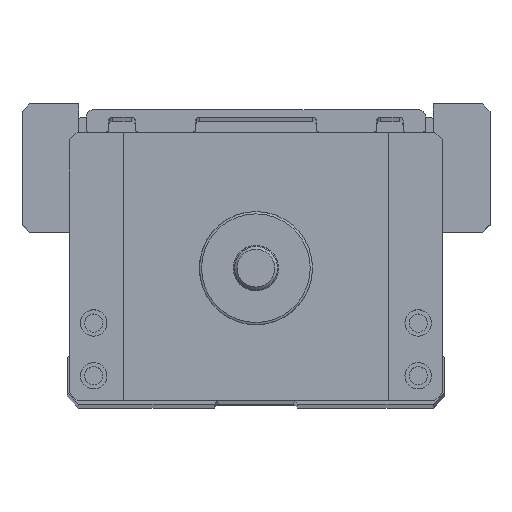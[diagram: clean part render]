
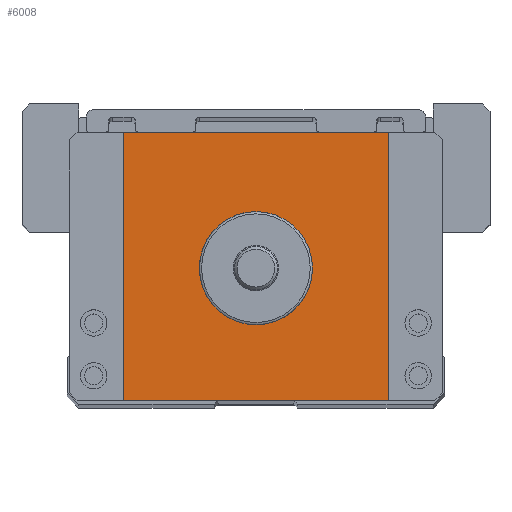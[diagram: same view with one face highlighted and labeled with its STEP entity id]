
A CAD part, top view. The second image highlights one B-rep face of the part: STEP entity #6008.
In plain terms, the highlighted planar face has unit normal (0, 0, 1).
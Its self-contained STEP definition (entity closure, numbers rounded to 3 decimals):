
#4439=FACE_BOUND('',#7900,.T.);
#4440=FACE_BOUND('',#7901,.T.);
#5284=CIRCLE('',#17453,7.5);
#6008=ADVANCED_FACE('',(#4439,#4440),#6436,.T.);
#6436=PLANE('',#17454);
#7900=EDGE_LOOP('',(#11159));
#7901=EDGE_LOOP('',(#11160,#11161,#11162,#11163));
#11159=ORIENTED_EDGE('',*,*,#14197,.T.);
#11160=ORIENTED_EDGE('',*,*,#14198,.T.);
#11161=ORIENTED_EDGE('',*,*,#14199,.T.);
#11162=ORIENTED_EDGE('',*,*,#14194,.T.);
#11163=ORIENTED_EDGE('',*,*,#14200,.T.);
#12528=VERTEX_POINT('',#33693);
#12529=VERTEX_POINT('',#33695);
#12531=VERTEX_POINT('',#33701);
#12532=VERTEX_POINT('',#33703);
#12533=VERTEX_POINT('',#33704);
#14194=EDGE_CURVE('',#12529,#12528,#15242,.T.);
#14197=EDGE_CURVE('',#12531,#12531,#5284,.T.);
#14198=EDGE_CURVE('',#12532,#12533,#15244,.T.);
#14199=EDGE_CURVE('',#12533,#12529,#15245,.T.);
#14200=EDGE_CURVE('',#12528,#12532,#15246,.T.);
#15242=LINE('',#33694,#16234);
#15244=LINE('',#33702,#16236);
#15245=LINE('',#33705,#16237);
#15246=LINE('',#33706,#16238);
#16234=VECTOR('',#20788,1.);
#16236=VECTOR('',#20796,1.);
#16237=VECTOR('',#20797,1.);
#16238=VECTOR('',#20798,1.);
#17453=AXIS2_PLACEMENT_3D('',#33700,#20794,#20795);
#17454=AXIS2_PLACEMENT_3D('',#33707,#20799,#20800);
#20788=DIRECTION('',(-1.,0.,0.));
#20794=DIRECTION('',(0.,0.,-1.));
#20795=DIRECTION('',(1.,0.,0.));
#20796=DIRECTION('',(1.,0.,0.));
#20797=DIRECTION('',(0.,1.,0.));
#20798=DIRECTION('',(0.,-1.,0.));
#20799=DIRECTION('',(0.,0.,1.));
#20800=DIRECTION('',(-1.,0.,0.));
#33693=CARTESIAN_POINT('',(-17.5,-4.5,151.5));
#33694=CARTESIAN_POINT('',(24.7,-4.5,151.5));
#33695=CARTESIAN_POINT('',(17.5,-4.5,151.5));
#33700=CARTESIAN_POINT('',(0.,-22.5,151.5));
#33701=CARTESIAN_POINT('',(7.5,-22.5,151.5));
#33702=CARTESIAN_POINT('',(-24.7,-40.,151.5));
#33703=CARTESIAN_POINT('',(-17.5,-40.,151.5));
#33704=CARTESIAN_POINT('',(17.5,-40.,151.5));
#33705=CARTESIAN_POINT('',(17.5,-40.,151.5));
#33706=CARTESIAN_POINT('',(-17.5,-40.,151.5));
#33707=CARTESIAN_POINT('',(24.7,-40.,151.5));
